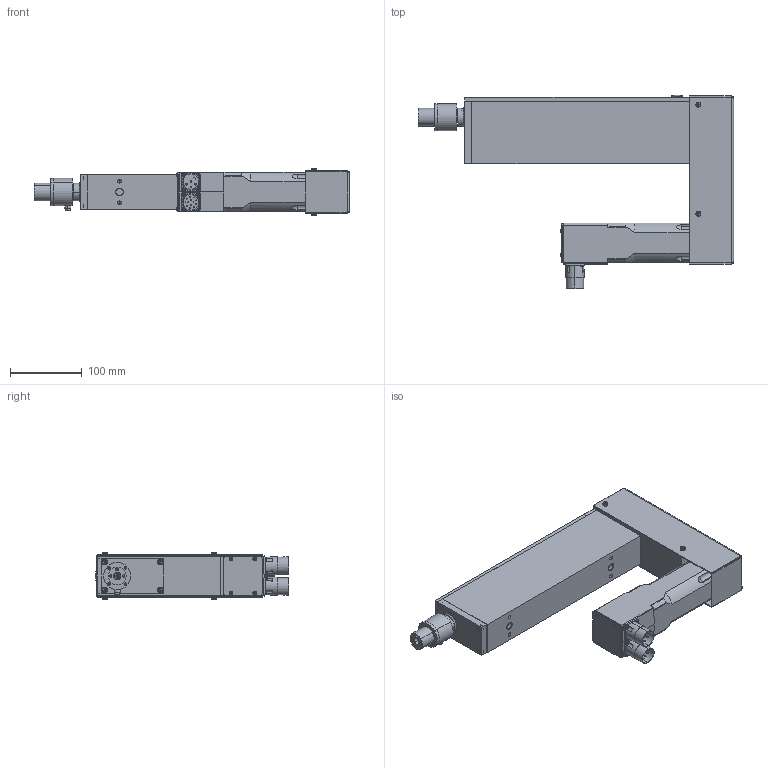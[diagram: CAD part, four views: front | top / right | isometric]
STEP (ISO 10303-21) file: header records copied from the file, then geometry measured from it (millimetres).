
FILE_DESCRIPTION (( 'STEP AP203' ), '1' );
FILE_NAME ('KM PR5PD015-020-030N.STEP', '2021-03-04T09:21:04', ( '' ), ( '' ), 'SwSTEP 2.0', 'SolidWorks 2016', '' );
FILE_SCHEMA (( 'CONFIG_CONTROL_DESIGN' ));
Products named in the file (2): KM PR5PD015-020-030N
Bounding box: 439 x 269.51 x 64.6 mm (x, y, z)
Volume: 2055816.5 mm3; surface area: 444434.5 mm2
Topology: 28 solids, 40 shells, 2130 faces, 4939 edges, 2914 vertices
Faces by surface type: plane 983, cylinder 592, cone 412, bspline 90, torus 40, sphere 13
Entity records: 63031 total; most frequent: CARTESIAN_POINT 15656, DIRECTION 9974, ORIENTED_EDGE 9534, EDGE_CURVE 4767, AXIS2_PLACEMENT_3D 3816, VERTEX_POINT 2901, EDGE_LOOP 2456, VECTOR 2342
